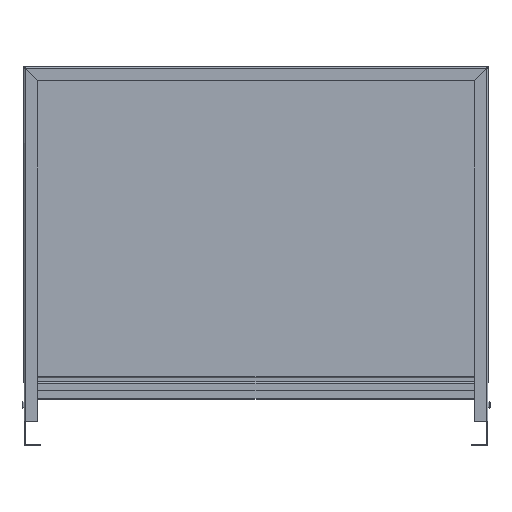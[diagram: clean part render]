
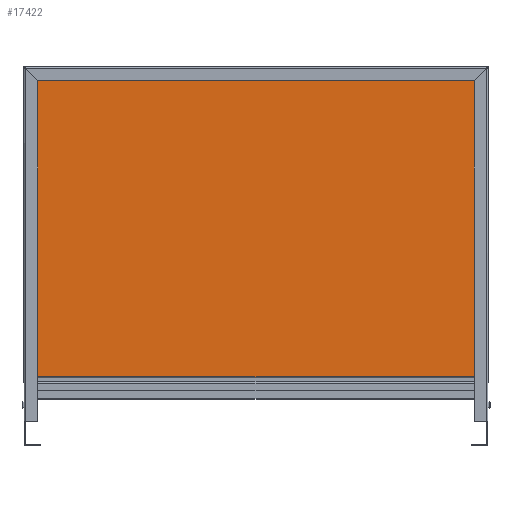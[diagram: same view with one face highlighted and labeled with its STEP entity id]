
A CAD part, front view. The second image highlights one B-rep face of the part: STEP entity #17422.
In plain terms, the highlighted planar face has unit normal (0, -1, 0).
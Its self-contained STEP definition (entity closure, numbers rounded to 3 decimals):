
#12334=CARTESIAN_POINT('',(-400.5,0.8,81.8));
#12335=VERTEX_POINT('',#12334);
#12368=CARTESIAN_POINT('',(-422.771,0.8,647.2));
#12369=VERTEX_POINT('',#12368);
#12399=CARTESIAN_POINT('',(-400.5,0.8,624.929));
#12400=VERTEX_POINT('',#12399);
#12407=CARTESIAN_POINT('',(-400.5,0.8,624.929));
#12408=DIRECTION('',(-0.707,0.,0.707));
#12409=VECTOR('',#12408,31.496);
#12410=LINE('',#12407,#12409);
#12411=EDGE_CURVE('',#12400,#12369,#12410,.T.);
#12436=CARTESIAN_POINT('',(-400.5,0.8,624.929));
#12437=DIRECTION('',(0.,-0.,-1.));
#12438=VECTOR('',#12437,543.129);
#12439=LINE('',#12436,#12438);
#12440=EDGE_CURVE('',#12400,#12335,#12439,.T.);
#12592=CARTESIAN_POINT('',(400.5,0.8,81.8));
#12593=VERTEX_POINT('',#12592);
#12608=CARTESIAN_POINT('',(422.771,0.8,647.2));
#12609=VERTEX_POINT('',#12608);
#12662=CARTESIAN_POINT('',(400.5,0.8,624.929));
#12663=VERTEX_POINT('',#12662);
#12664=CARTESIAN_POINT('',(422.771,0.8,647.2));
#12665=DIRECTION('',(-0.707,-0.,-0.707));
#12666=VECTOR('',#12665,31.496);
#12667=LINE('',#12664,#12666);
#12668=EDGE_CURVE('',#12609,#12663,#12667,.T.);
#12686=CARTESIAN_POINT('',(400.5,0.8,81.8));
#12687=DIRECTION('',(0.,0.,1.));
#12688=VECTOR('',#12687,543.129);
#12689=LINE('',#12686,#12688);
#12690=EDGE_CURVE('',#12593,#12663,#12689,.T.);
#12848=CARTESIAN_POINT('',(-422.629,0.8,647.2));
#12849=VERTEX_POINT('',#12848);
#12856=CARTESIAN_POINT('',(-400.429,0.8,625.));
#12857=VERTEX_POINT('',#12856);
#12858=CARTESIAN_POINT('',(-422.629,0.8,647.2));
#12859=DIRECTION('',(0.707,-0.,-0.707));
#12860=VECTOR('',#12859,31.396);
#12861=LINE('',#12858,#12860);
#12862=EDGE_CURVE('',#12849,#12857,#12861,.T.);
#12909=CARTESIAN_POINT('',(422.629,0.8,647.2));
#12910=VERTEX_POINT('',#12909);
#12941=CARTESIAN_POINT('',(400.429,0.8,625.));
#12942=VERTEX_POINT('',#12941);
#12949=CARTESIAN_POINT('',(400.429,0.8,625.));
#12950=DIRECTION('',(0.707,0.,0.707));
#12951=VECTOR('',#12950,31.396);
#12952=LINE('',#12949,#12951);
#12953=EDGE_CURVE('',#12942,#12910,#12952,.T.);
#12972=CARTESIAN_POINT('',(400.429,0.8,625.));
#12973=DIRECTION('',(-1.,0.,0.));
#12974=VECTOR('',#12973,800.859);
#12975=LINE('',#12972,#12974);
#12976=EDGE_CURVE('',#12942,#12857,#12975,.T.);
#17390=CARTESIAN_POINT('',(0.,0.8,0.));
#17391=DIRECTION('',(0.,1.,0.));
#17392=DIRECTION('',(-1.,0.,0.));
#17393=AXIS2_PLACEMENT_3D('',#17390,#17391,#17392);
#17394=PLANE('',#17393);
#17395=ORIENTED_EDGE('',*,*,#12411,.F.);
#17396=ORIENTED_EDGE('',*,*,#12440,.T.);
#17397=CARTESIAN_POINT('',(400.5,0.8,81.8));
#17398=DIRECTION('',(-1.,0.,0.));
#17399=VECTOR('',#17398,801.);
#17400=LINE('',#17397,#17399);
#17401=EDGE_CURVE('',#12593,#12335,#17400,.T.);
#17402=ORIENTED_EDGE('',*,*,#17401,.F.);
#17403=ORIENTED_EDGE('',*,*,#12690,.T.);
#17404=ORIENTED_EDGE('',*,*,#12668,.F.);
#17405=CARTESIAN_POINT('',(422.629,0.8,647.2));
#17406=DIRECTION('',(1.,0.,-0.));
#17407=VECTOR('',#17406,0.141);
#17408=LINE('',#17405,#17407);
#17409=EDGE_CURVE('',#12910,#12609,#17408,.T.);
#17410=ORIENTED_EDGE('',*,*,#17409,.F.);
#17411=ORIENTED_EDGE('',*,*,#12953,.F.);
#17412=ORIENTED_EDGE('',*,*,#12976,.T.);
#17413=ORIENTED_EDGE('',*,*,#12862,.F.);
#17414=CARTESIAN_POINT('',(-422.771,0.8,647.2));
#17415=DIRECTION('',(1.,0.,-0.));
#17416=VECTOR('',#17415,0.141);
#17417=LINE('',#17414,#17416);
#17418=EDGE_CURVE('',#12369,#12849,#17417,.T.);
#17419=ORIENTED_EDGE('',*,*,#17418,.F.);
#17420=EDGE_LOOP('',(#17395,#17396,#17402,#17403,#17404,#17410,#17411,#17412,#17413,#17419));
#17421=FACE_BOUND('',#17420,.T.);
#17422=ADVANCED_FACE('',(#17421),#17394,.F.);
